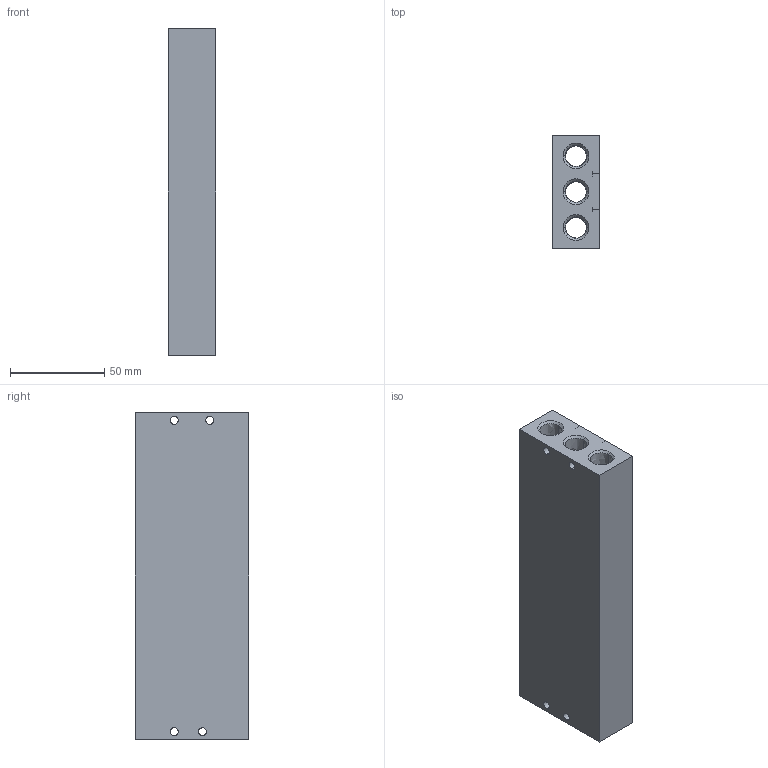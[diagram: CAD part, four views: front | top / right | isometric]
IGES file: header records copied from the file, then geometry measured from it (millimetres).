
Global section: file name: No Iges File Name specified; native system: AutoDesk Inventor R11.0; preprocessor: AutoDesk Inventor Iges Exporter R11.0; author: No Author specified; organization: No Organization specified; date: 20061201.115635; units: millimetre
Bounding box: 25 x 60 x 173 mm (x, y, z)
Volume: 190042.2 mm3; surface area: 56106.2 mm2
Topology: 1 solids, 1 shells, 277 faces, 733 edges, 437 vertices
Faces by surface type: bspline 265, revolution 6, plane 6
